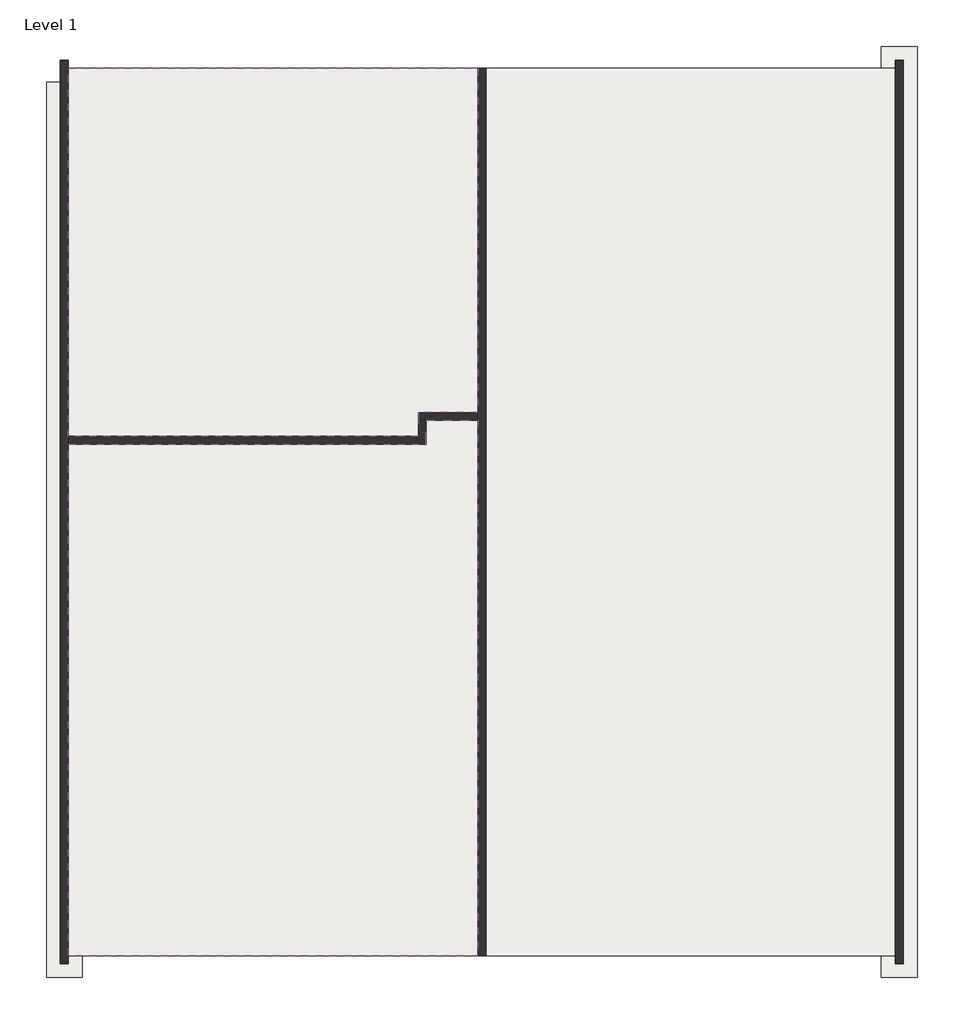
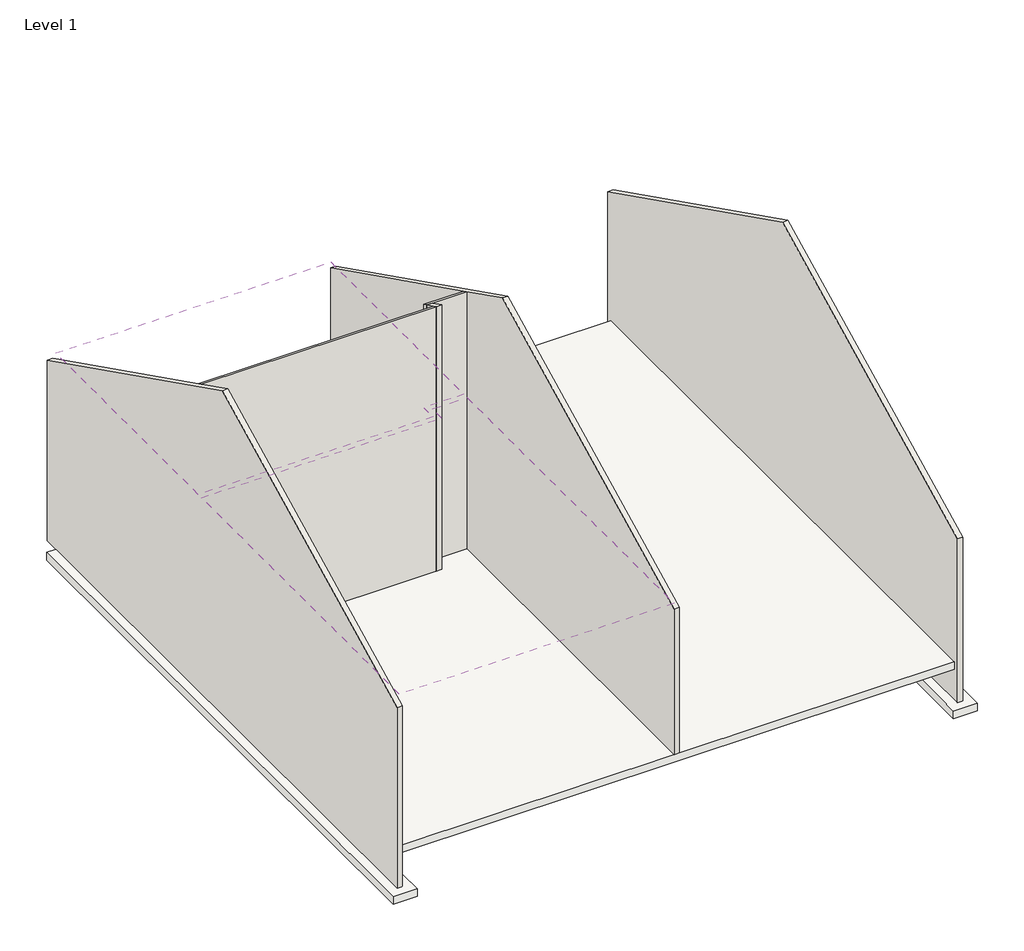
# One storey: 6 walls, 2 coverings, 2 footings, 1 slab.
"""IFC4 building model written with IfcOpenShell, lengths in millimetres."""

import ifcopenshell
import ifcopenshell.guid

model = None  # the IFC model being written
_history = None  # IfcOwnerHistory: only IFC2X3 demands one
_inside = {}  # id of a spatial element -> (the spatial element, [elements in it])
_under = {}  # id of a project, library or spatial element -> (it, [spatial elements below it])
_declared = {}  # id of a project -> (the project, [libraries it declares])
_typed = {}  # id of a type object -> (the type object, [elements of that type])
_made_of = {}  # id of a material, layer set ... -> (it, [elements and type objects made of it])


def new_model(schema):
    """Start an empty IFC model of exactly this schema.

    Asked for "IFC4X3", IfcOpenShell would pick the latest addendum, in which some entities
    have other attributes; the version numbers below select the first issue.
    IFC2X3 requires an IfcOwnerHistory on every rooted entity: one is made here for all.
    """
    global model, _history
    if schema == "IFC4X3":
        model = ifcopenshell.file(schema_version=(4, 3, 0, 0))
    else:
        model = ifcopenshell.file(schema=schema)
    _inside.clear()
    _under.clear()
    _declared.clear()
    _typed.clear()
    _made_of.clear()
    _history = None
    if model.schema == "IFC2X3":
        org = make("IfcOrganization", Name="unknown")
        user = make(
            "IfcPersonAndOrganization",
            ThePerson=make("IfcPerson", FamilyName="unknown"),
            TheOrganization=org,
        )
        app = make(
            "IfcApplication",
            ApplicationDeveloper=org,
            Version="unknown",
            ApplicationFullName="unknown",
            ApplicationIdentifier="unknown",
        )
        _history = make(
            "IfcOwnerHistory",
            OwningUser=user,
            OwningApplication=app,
            ChangeAction="ADDED",
            CreationDate=0,
        )
    return model


def make(cls, **values):
    """One entity of the class cls with the attributes given. An attribute that is None is left unset."""
    return model.create_entity(
        cls, **{name: value for name, value in values.items() if value is not None}
    )


def rooted(cls, **values):
    """An entity with a GlobalId (a new one), such as an element, a storey or a relation."""
    return make(cls, GlobalId=ifcopenshell.guid.new(), OwnerHistory=_history, **values)


def si_unit(unit_type, name, prefix=None):
    """IfcSIUnit, for example si_unit("LENGTHUNIT", "METRE", prefix="MILLI")."""
    return make("IfcSIUnit", UnitType=unit_type, Prefix=prefix, Name=name)


def assignment(units):
    """IfcUnitAssignment: the units of a project."""
    return None if units is None else make("IfcUnitAssignment", Units=units)


def point(xyz):
    """IfcCartesianPoint."""
    return None if xyz is None else make("IfcCartesianPoint", Coordinates=xyz)


def direction(xyz):
    """IfcDirection."""
    return None if xyz is None else make("IfcDirection", DirectionRatios=xyz)


def frame(location, z_axis=None, x_axis=None):
    """IfcAxis2Placement3D, a coordinate frame: its origin and axes. An axis left out is left unset."""
    return make(
        "IfcAxis2Placement3D",
        Location=point(location),
        Axis=direction(z_axis),
        RefDirection=direction(x_axis),
    )


def origin():
    """The frame at (0, 0, 0) with its axes left unset."""
    return frame((0.0, 0.0, 0.0))


def place(relative_to, where):
    """IfcLocalPlacement: puts the frame where relative to a parent placement (None: the world)."""
    return make(
        "IfcLocalPlacement", PlacementRelTo=relative_to, RelativePlacement=where
    )


def context(
    kind, dimensions, precision=None, world=None, true_north=None, identifier=None
):
    """IfcGeometricRepresentationContext, for example the 3D "Model" context."""
    return make(
        "IfcGeometricRepresentationContext",
        ContextIdentifier=identifier,
        ContextType=kind,
        CoordinateSpaceDimension=dimensions,
        Precision=precision,
        WorldCoordinateSystem=world,
        TrueNorth=true_north,
    )


def project(units=None, contexts=None):
    """IfcProject with its units and contexts."""
    return rooted(
        "IfcProject",
        Name="project",
        RepresentationContexts=contexts,
        UnitsInContext=assignment(units),
    )


def spatial(cls, under=None, at=None, **own):
    """A site, building, storey or space (cls), placed at a placement, below another one or the project."""
    s = rooted(cls, ObjectPlacement=at, **own)
    if under is not None:
        _under.setdefault(under.id(), (under, []))[1].append(s)
    return s


def polyline(points):
    """IfcPolyline through the points."""
    return make("IfcPolyline", Points=[point(p) for p in points])


def outline(outer, holes=None, kind="AREA"):
    """IfcArbitraryClosedProfileDef: a profile drawn as a closed curve; with holes, ...WithVoids."""
    if holes is None:
        return make("IfcArbitraryClosedProfileDef", ProfileType=kind, OuterCurve=outer)
    return make(
        "IfcArbitraryProfileDefWithVoids",
        ProfileType=kind,
        OuterCurve=outer,
        InnerCurves=holes,
    )


def extrude(swept, where, along, depth):
    """IfcExtrudedAreaSolid: the profile swept, set in the frame where, extruded along a direction by depth."""
    return make(
        "IfcExtrudedAreaSolid",
        SweptArea=swept,
        Position=where,
        ExtrudedDirection=direction(along),
        Depth=depth,
    )


def faces_of(points, faces, orient=None, outer=None):
    """IfcFace entities. A face is a list of loops; a loop is a list of indices into points, from 0.

    orient and outer hold one flag for each loop. By default every Orientation is true, the
    first loop of a face is its IfcFaceOuterBound and the others are IfcFaceBound.
    """
    made = []
    for i, loops in enumerate(faces):
        bounds = []
        for j, loop in enumerate(loops):
            is_outer = j == 0 if outer is None else outer[i][j]
            bounds.append(
                make(
                    "IfcFaceOuterBound" if is_outer else "IfcFaceBound",
                    Bound=make("IfcPolyLoop", Polygon=[points[k] for k in loop]),
                    Orientation=True if orient is None else orient[i][j],
                )
            )
        made.append(make("IfcFace", Bounds=bounds))
    return made


def faceted_brep(points, faces, orient=None, outer=None, voids=None):
    """IfcFacetedBrep: a solid bounded by flat faces; with voids (closed shells), ...WithVoids."""
    shared = [point(p) for p in points]
    hull = make("IfcClosedShell", CfsFaces=faces_of(shared, faces, orient, outer))
    if voids is None:
        return make("IfcFacetedBrep", Outer=hull)
    return make(
        "IfcFacetedBrepWithVoids",
        Outer=hull,
        Voids=[
            make(cls, CfsFaces=faces_of(shared, fs, o, b)) for cls, fs, o, b in voids
        ],
    )


def shape(context_of_items, identifier, shape_type, items):
    """IfcShapeRepresentation: the items that make up one representation, for example the "Body"."""
    return make(
        "IfcShapeRepresentation",
        ContextOfItems=context_of_items,
        RepresentationIdentifier=identifier,
        RepresentationType=shape_type,
        Items=items,
    )


def made_of(thing, what):
    """Note that an element or type object is made of a material, layer set ...; save() writes the relation."""
    if what is not None:
        _made_of.setdefault(what.id(), (what, []))[1].append(thing)
    return thing


def element(
    cls,
    number,
    at=None,
    inside=None,
    cuts=None,
    type_object=None,
    material=None,
    context=None,
    identifier="Body",
    shape_type=None,
    held_by="IfcProductDefinitionShape",
    body=None,
    shapes=None,
    **own,
):
    """One element of the class cls, such as IfcWall. Its Tag is "e" and its number.

    at: its placement. inside: the storey or other place that contains it. cuts: it is an
    opening in that element (IfcRelVoidsElement). A single representation is given by context,
    identifier, shape_type and body (its items); several are given by shapes. held_by: the class
    of the entity that holds the representations. save() writes the other relations.
    """
    e = rooted(cls, Tag="e%d" % number, ObjectPlacement=at, **own)
    if body is not None:
        shapes = [shape(context, identifier, shape_type, body)]
    if shapes is not None:
        e.Representation = make(held_by, Representations=shapes)
    if inside is not None:
        _inside.setdefault(inside.id(), (inside, []))[1].append(e)
    if cuts is not None:
        rooted(
            "IfcRelVoidsElement", RelatingBuildingElement=cuts, RelatedOpeningElement=e
        )
    if type_object is not None:
        _typed.setdefault(type_object.id(), (type_object, []))[1].append(e)
    return made_of(e, material)


def aggregate(whole, parts):
    """IfcRelAggregates: a whole, such as a stair, and the parts it consists of."""
    return rooted("IfcRelAggregates", RelatingObject=whole, RelatedObjects=parts)


def save(model, path):
    """Write the relations noted so far, then the file.

    IfcRelAggregates (storeys below a building ...), IfcRelContainedInSpatialStructure (elements
    in a storey), IfcRelDefinesByType, IfcRelAssociatesMaterial and IfcRelDeclares: one each for
    every whole, place, type object, material and project.
    """
    for whole, parts in _under.values():
        aggregate(whole, parts)
    for where, things in _inside.values():
        rooted(
            "IfcRelContainedInSpatialStructure",
            RelatedElements=things,
            RelatingStructure=where,
        )
    for kind, things in _typed.values():
        rooted("IfcRelDefinesByType", RelatedObjects=things, RelatingType=kind)
    for what, things in _made_of.values():
        rooted("IfcRelAssociatesMaterial", RelatedObjects=things, RelatingMaterial=what)
    for by, libraries in _declared.values():
        rooted("IfcRelDeclares", RelatingContext=by, RelatedDefinitions=libraries)
    model.write(path)


model = new_model("IFC4")

# Units and contexts
model_context = context("Model", 3, world=origin())
ifc_project = project(units=[si_unit("LENGTHUNIT", "METRE", prefix="MILLI")], contexts=[model_context])

# Site, building, storey
site = spatial("IfcSite", under=ifc_project)
building = spatial("IfcBuilding", under=site)
storey = spatial("IfcBuildingStorey", under=building, Name="Level 1", Elevation=0.0)

# Coverings
placement = place(None, origin())
element("IfcCovering", 1, ObjectType="GWB on Mtl. Stud", at=placement, inside=storey, context=model_context, shape_type="SweptSolid", body=[
    extrude(outline(polyline([(-10700.1057377, 12313.0214805), (-235.3057377, 12313.0214805), (-235.3057377, 3524.6214805), (-1759.3057377, 3524.6214805), (-1759.3057377, 2915.0214805), (-10700.1057377, 2915.0214805), (-10700.1057377, 12313.0214805)])), frame((0.0, 0.0, 6096.0), z_axis=(0.0, 0.0, 1.0), x_axis=(1.0, 0.0, 0.0)), (0.0, 0.0, 1.0), 107.95),
])
element("IfcCovering", 2, ObjectType="GWB on Mtl. Stud", at=placement, inside=storey, context=model_context, shape_type="SweptSolid", body=[
    extrude(outline(polyline([(-235.3057377, -10343.7785195), (-10700.1057377, -10343.7785195), (-10700.1057377, 2711.8214805), (-1556.1057377, 2711.8214805), (-1556.1057377, 3321.4214805), (-235.3057377, 3321.4214805), (-235.3057377, -10343.7785195)])), frame((0.0, 0.0, 6096.0), z_axis=(0.0, 0.0, 1.0), x_axis=(1.0, 0.0, 0.0)), (0.0, 0.0, 1.0), 107.95),
])

# Footings
element("IfcFooting", 3, ObjectType="Bearing Footing - 36\" x 12\"", at=placement, inside=storey, context=model_context, shape_type="Brep", body=[
    faceted_brep([(10077.0942623, 12871.8214805, -1524.0), (10077.0942623, 11957.4214805, -1524.0), (10077.0942623, -9988.1785195, -1524.0), (10077.0942623, -10902.5785195, -1524.0), (10991.4942623, -10902.5785195, -1524.0), (10991.4942623, 12871.8214805, -1524.0), (10991.4942623, 12871.8214805, -1828.8), (10991.4942623, -10902.5785195, -1828.8), (10077.0942623, 12871.8214805, -1828.8), (10077.0942623, -10902.5785195, -1828.8), (10077.0942623, -9988.1785195, -1828.8), (10077.0942623, 11957.4214805, -1828.8)], [[[0, 1, 2, 3, 4, 5]], [[6, 5, 4, 7]], [[8, 6, 7, 9, 10, 11]], [[0, 8, 11, 10, 9, 3, 2, 1]], [[0, 5, 6, 8]], [[4, 3, 9, 7]]]),
])
element("IfcFooting", 4, ObjectType="Bearing Footing - 36\" x 12\"", at=placement, inside=storey, context=model_context, shape_type="Brep", body=[
    faceted_brep([(-11258.9057377, -10902.5785195, -1524.0), (-10344.5057377, -10902.5785195, -1524.0), (-10344.5057377, -9988.1785195, -1524.0), (-10344.5057377, 11957.4214805, -1524.0), (-11258.9057377, 11957.4214805, -1524.0), (-11258.9057377, -10902.5785195, -1828.8), (-11258.9057377, 11957.4214805, -1828.8), (-10344.5057377, -10902.5785195, -1828.8), (-10344.5057377, 11957.4214805, -1828.8), (-10344.5057377, -9988.1785195, -1828.8)], [[[0, 1, 2, 3, 4]], [[5, 0, 4, 6]], [[7, 5, 6, 8, 9]], [[1, 7, 9, 8, 3, 2]], [[4, 3, 8, 6]], [[1, 0, 5, 7]]]),
])

# Slab
element("IfcSlab", 5, ObjectType="Generic - 12\"", at=placement, inside=storey, context=model_context, shape_type="SweptSolid", body=[
    extrude(outline(polyline([(10432.6942623, 12313.0214805), (10432.6942623, -10343.7785195), (-10700.1057377, -10343.7785195), (-10700.1057377, 12313.0214805), (10432.6942623, 12313.0214805)])), frame((0.0, 0.0, -304.8), z_axis=(0.0, 0.0, 1.0), x_axis=(1.0, 0.0, 0.0)), (0.0, 0.0, 1.0), 304.8),
])

# Walls
element("IfcWall", 6, ObjectType="Generic - 8\"", at=placement, inside=storey, context=model_context, shape_type="Brep", body=[
    faceted_brep([(10432.6942623, 12516.2214805, -1524.0), (10432.6942623, 12313.0214805, -1524.0), (10432.6942623, -10343.7785195, -1524.0), (10432.6942623, -10546.9785195, -1524.0), (10432.6942623, -10546.9785195, 5073.6697207), (10432.6942623, 984.6214805, 10839.4697207), (10432.6942623, 12516.2214805, 5073.6697207), (10635.8942623, 12516.2214805, -1524.0), (10635.8942623, 12516.2214805, 5073.6697207), (10635.8942623, 984.6214805, 10839.4697207), (10635.8942623, -10546.9785195, 5073.6697207), (10635.8942623, -10546.9785195, -1524.0)], [[[0, 1, 2, 3, 4, 5, 6]], [[7, 8, 9, 10, 11]], [[4, 3, 11, 10]], [[0, 6, 8, 7]], [[3, 2, 1, 0, 7, 11]], [[5, 4, 10, 9]], [[6, 5, 9, 8]]]),
])
element("IfcWall", 7, ObjectType="Generic - 8\"", at=placement, inside=storey, context=model_context, shape_type="Brep", body=[
    faceted_brep([(-10700.1057377, -10546.9785195, -1524.0), (-10700.1057377, -10343.7785195, -1524.0), (-10700.1057377, 12313.0214805, -1524.0), (-10700.1057377, 12516.2214805, -1524.0), (-10700.1057377, 12516.2214805, 5755.2232402), (-10700.1057377, 12313.0214805, 5856.8232402), (-10700.1057377, 2915.0214805, 10555.8232402), (-10700.1057377, 2711.8214805, 10657.4232402), (-10700.1057377, 984.6214805, 11521.0232402), (-10700.1057377, -10343.7785195, 5856.8232402), (-10700.1057377, -10546.9785195, 5755.2232402), (-10903.3057377, -10546.9785195, -1524.0), (-10903.3057377, -10546.9785195, 5755.2232402), (-10903.3057377, 984.6214805, 11521.0232402), (-10903.3057377, 12516.2214805, 5755.2232402), (-10903.3057377, 12516.2214805, -1524.0)], [[[0, 1, 2, 3, 4, 5, 6, 7, 8, 9, 10]], [[11, 12, 13, 14, 15]], [[4, 3, 15, 14]], [[0, 10, 12, 11]], [[3, 2, 1, 0, 11, 15]], [[10, 9, 8, 13, 12]], [[8, 7, 6, 5, 4, 14, 13]]]),
])
element("IfcWall", 8, ObjectType="Generic - 8\"", at=placement, inside=storey, context=model_context, shape_type="Brep", body=[
    faceted_brep([(-235.3057377, 12313.0214805, 0.0), (-235.3057377, 3524.6214805, 0.0), (-235.3057377, 3321.4214805, 0.0), (-235.3057377, -10343.7785195, 0.0), (-235.3057377, -10343.7785195, 5856.8232402), (-235.3057377, 984.6214805, 11521.0232402), (-235.3057377, 3321.4214805, 10352.6232402), (-235.3057377, 3524.6214805, 10251.0232402), (-235.3057377, 12313.0214805, 5856.8232402), (-32.1057377, 12313.0214805, 0.0), (-32.1057377, 12313.0214805, 5856.8232402), (-32.1057377, 984.6214805, 11521.0232402), (-32.1057377, -10343.7785195, 5856.8232402), (-32.1057377, -10343.7785195, 0.0)], [[[0, 1, 2, 3, 4, 5, 6, 7, 8]], [[9, 10, 11, 12, 13]], [[3, 2, 1, 0, 9, 13]], [[0, 8, 10, 9]], [[4, 3, 13, 12]], [[8, 7, 6, 5, 11, 10]], [[5, 4, 12, 11]]]),
])
element("IfcWall", 9, ObjectType="Generic - 8\"", at=placement, inside=storey, context=model_context, shape_type="Brep", body=[
    faceted_brep([(-235.3057377, 3524.6214805, 0.0), (-1759.3057377, 3524.6214805, 0.0), (-1759.3057377, 3524.6214805, 10251.0232402), (-235.3057377, 3524.6214805, 10251.0232402), (-235.3057377, 3321.4214805, 0.0), (-235.3057377, 3321.4214805, 10352.6232402), (-1556.1057377, 3321.4214805, 10352.6232402), (-1759.3057377, 3321.4214805, 10352.6232402), (-1759.3057377, 3321.4214805, 0.0), (-1556.1057377, 3321.4214805, 0.0)], [[[0, 1, 2, 3]], [[4, 5, 6, 7, 8, 9]], [[1, 0, 4, 9, 8]], [[0, 3, 5, 4]], [[2, 1, 8, 7]], [[3, 2, 7, 6, 5]]]),
])
element("IfcWall", 10, ObjectType="Generic - 8\"", at=placement, inside=storey, context=model_context, shape_type="Brep", body=[
    faceted_brep([(-1759.3057377, 3321.4214805, 0.0), (-1759.3057377, 2915.0214805, 0.0), (-1759.3057377, 2711.8214805, 0.0), (-1759.3057377, 2711.8214805, 10657.4232402), (-1759.3057377, 2915.0214805, 10555.8232402), (-1759.3057377, 3321.4214805, 10352.6232402), (-1556.1057377, 3321.4214805, 0.0), (-1556.1057377, 3321.4214805, 10352.6232402), (-1556.1057377, 2711.8214805, 10657.4232402), (-1556.1057377, 2711.8214805, 0.0)], [[[0, 1, 2, 3, 4, 5]], [[6, 7, 8, 9]], [[2, 1, 0, 6, 9]], [[0, 5, 7, 6]], [[3, 2, 9, 8]], [[5, 4, 3, 8, 7]]]),
])
element("IfcWall", 11, ObjectType="Generic - 8\"", at=placement, inside=storey, context=model_context, shape_type="SweptSolid", body=[
    extrude(outline(polyline([(2915.0214805, 10555.8232402), (2915.0214805, 0.0), (2711.8214805, 0.0), (2711.8214805, 10657.4232402), (2915.0214805, 10555.8232402)])), frame((-10700.1057377, 0.0, 0.0), z_axis=(1.0, 0.0, 0.0), x_axis=(0.0, 1.0, 0.0)), (0.0, 0.0, 1.0), 8940.8),
])

save(model, "model.ifc")
